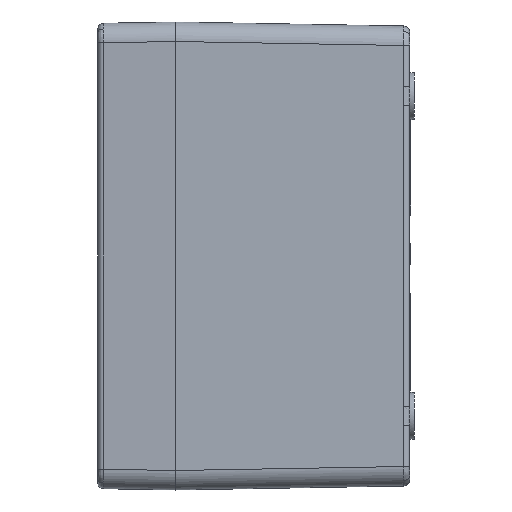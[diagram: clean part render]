
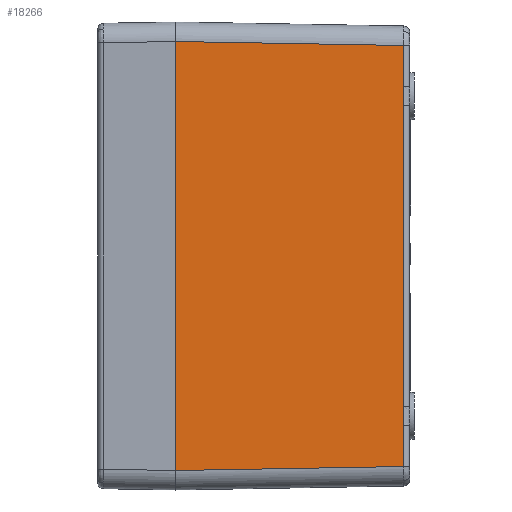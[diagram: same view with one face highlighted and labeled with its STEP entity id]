
A CAD part, left-side view. The second image highlights one B-rep face of the part: STEP entity #18266.
In plain terms, the highlighted planar face has unit normal (-1, -0.018, 0).
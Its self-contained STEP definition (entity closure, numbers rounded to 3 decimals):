
#131 = DIRECTION ( 'NONE',  ( -1., -0.017, 0. ) ) ;
#245 = EDGE_CURVE ( 'NONE', #10546, #3145, #15880, .T. ) ;
#483 = CARTESIAN_POINT ( 'NONE',  ( -59.978, -58.526, 43.039 ) ) ;
#682 = VECTOR ( 'NONE', #11100, 1000. ) ;
#742 = CARTESIAN_POINT ( 'NONE',  ( -59.978, -58.526, -38.554 ) ) ;
#894 = EDGE_CURVE ( 'NONE', #11253, #6095, #16786, .T. ) ;
#1049 = VECTOR ( 'NONE', #6722, 1000. ) ;
#1319 = CARTESIAN_POINT ( 'NONE',  ( -59.978, -58.526, 53.979 ) ) ;
#1507 = CARTESIAN_POINT ( 'NONE',  ( -59.978, -58.553, -39.369 ) ) ;
#1760 = VERTEX_POINT ( 'NONE', #15675 ) ;
#1876 = VERTEX_POINT ( 'NONE', #1319 ) ;
#2108 = CARTESIAN_POINT ( 'NONE',  ( -59.977, -58.601, 41.815 ) ) ;
#2316 = VERTEX_POINT ( 'NONE', #18777 ) ;
#2351 = VECTOR ( 'NONE', #18549, 1000. ) ;
#2868 = LINE ( 'NONE', #16844, #2351 ) ;
#3135 = CARTESIAN_POINT ( 'NONE',  ( -59.977, -58.62, -40.592 ) ) ;
#3145 = VERTEX_POINT ( 'NONE', #7828 ) ;
#3291 = PLANE ( 'NONE',  #11204 ) ;
#3631 = DIRECTION ( 'NONE',  ( 0., 0., 1. ) ) ;
#4760 = CARTESIAN_POINT ( 'NONE',  ( -59.977, -58.601, -41.815 ) ) ;
#4827 = CARTESIAN_POINT ( 'NONE',  ( -59.978, -58.526, -43.038 ) ) ;
#5359 = CARTESIAN_POINT ( 'NONE',  ( -59.977, -58.601, 40.185 ) ) ;
#5679 = ORIENTED_EDGE ( 'NONE', *, *, #245, .T. ) ;
#6095 = VERTEX_POINT ( 'NONE', #742 ) ;
#6254 = CARTESIAN_POINT ( 'NONE',  ( -59.978, -58.526, 60. ) ) ;
#6385 = CARTESIAN_POINT ( 'NONE',  ( -59.978, -58.553, -42.631 ) ) ;
#6418 = EDGE_CURVE ( 'NONE', #7121, #1760, #12961, .T. ) ;
#6429 = ORIENTED_EDGE ( 'NONE', *, *, #16068, .T. ) ;
#6722 = DIRECTION ( 'NONE',  ( 0., 0., 1. ) ) ;
#7042 = DIRECTION ( 'NONE',  ( 0.017, -1., 0.017 ) ) ;
#7121 = VERTEX_POINT ( 'NONE', #18341 ) ;
#7828 = CARTESIAN_POINT ( 'NONE',  ( -59.978, -58.526, 43.446 ) ) ;
#7977 = EDGE_CURVE ( 'NONE', #2316, #11253, #17398, .T. ) ;
#8049 = CARTESIAN_POINT ( 'NONE',  ( -59.978, -58.526, -43.446 ) ) ;
#8638 = CARTESIAN_POINT ( 'NONE',  ( -59.978, -58.526, 38.962 ) ) ;
#8685 = EDGE_CURVE ( 'NONE', #1876, #1760, #12628, .T. ) ;
#9248 = ORIENTED_EDGE ( 'NONE', *, *, #8685, .T. ) ;
#9535 = VECTOR ( 'NONE', #17035, 1000. ) ;
#9893 = CARTESIAN_POINT ( 'NONE',  ( -59.978, -58.526, 60. ) ) ;
#10081 = CARTESIAN_POINT ( 'NONE',  ( -61., 0., 60. ) ) ;
#10181 = CARTESIAN_POINT ( 'NONE',  ( -59.978, -58.526, 43.446 ) ) ;
#10546 = VERTEX_POINT ( 'NONE', #11035 ) ;
#11035 = CARTESIAN_POINT ( 'NONE',  ( -59.978, -58.526, 38.554 ) ) ;
#11100 = DIRECTION ( 'NONE',  ( 0., 0., 1. ) ) ;
#11204 = AXIS2_PLACEMENT_3D ( 'NONE', #19459, #131, #11468 ) ;
#11223 = CARTESIAN_POINT ( 'NONE',  ( -59.978, -58.526, -38.961 ) ) ;
#11253 = VERTEX_POINT ( 'NONE', #15214 ) ;
#11468 = DIRECTION ( 'NONE',  ( 0.017, -1., 0. ) ) ;
#11653 = EDGE_CURVE ( 'NONE', #6095, #10546, #14997, .T. ) ;
#11813 = ORIENTED_EDGE ( 'NONE', *, *, #6418, .F. ) ;
#11848 = CARTESIAN_POINT ( 'NONE',  ( -59.978, -58.553, 42.631 ) ) ;
#12628 = LINE ( 'NONE', #15395, #9535 ) ;
#12632 = EDGE_LOOP ( 'NONE', ( #6429, #16312, #12847, #15029, #5679, #13795, #9248, #11813 ) ) ;
#12847 = ORIENTED_EDGE ( 'NONE', *, *, #894, .T. ) ;
#12903 = CARTESIAN_POINT ( 'NONE',  ( -59.977, -58.601, -40.185 ) ) ;
#12961 = LINE ( 'NONE', #10081, #18224 ) ;
#13464 = CARTESIAN_POINT ( 'NONE',  ( -59.977, -58.62, 41.408 ) ) ;
#13795 = ORIENTED_EDGE ( 'NONE', *, *, #17488, .T. ) ;
#14459 = CARTESIAN_POINT ( 'NONE',  ( -59.977, -58.62, -41.408 ) ) ;
#14997 = LINE ( 'NONE', #9893, #1049 ) ;
#15029 = ORIENTED_EDGE ( 'NONE', *, *, #11653, .T. ) ;
#15064 = CARTESIAN_POINT ( 'NONE',  ( -59.977, -58.62, 40.592 ) ) ;
#15107 = CARTESIAN_POINT ( 'NONE',  ( -60.965, -2.006, -54.966 ) ) ;
#15214 = CARTESIAN_POINT ( 'NONE',  ( -59.978, -58.526, -43.446 ) ) ;
#15395 = CARTESIAN_POINT ( 'NONE',  ( -61.002, 0.087, 55.002 ) ) ;
#15675 = CARTESIAN_POINT ( 'NONE',  ( -61., 0., 55.001 ) ) ;
#15834 = LINE ( 'NONE', #15107, #19653 ) ;
#15880 = B_SPLINE_CURVE_WITH_KNOTS ( 'NONE', 3,
 ( #16669, #8638, #19948, #5359, #15064, #13464, #2108, #11848, #483, #10181 ),
 .UNSPECIFIED., .F., .F.,
 ( 4, 2, 2, 2, 4 ),
 ( 0., 0.001, 0.002, 0.004, 0.005 ),
 .UNSPECIFIED. ) ;
#16068 = EDGE_CURVE ( 'NONE', #7121, #2316, #15834, .T. ) ;
#16312 = ORIENTED_EDGE ( 'NONE', *, *, #7977, .T. ) ;
#16669 = CARTESIAN_POINT ( 'NONE',  ( -59.978, -58.526, 38.554 ) ) ;
#16786 = B_SPLINE_CURVE_WITH_KNOTS ( 'NONE', 3,
 ( #8049, #4827, #6385, #4760, #14459, #3135, #12903, #1507, #11223, #20913 ),
 .UNSPECIFIED., .F., .F.,
 ( 4, 2, 2, 2, 4 ),
 ( 0., 0.001, 0.002, 0.004, 0.005 ),
 .UNSPECIFIED. ) ;
#16844 = CARTESIAN_POINT ( 'NONE',  ( -59.978, -58.526, 60. ) ) ;
#17035 = DIRECTION ( 'NONE',  ( -0.017, 1., 0.017 ) ) ;
#17398 = LINE ( 'NONE', #6254, #682 ) ;
#17488 = EDGE_CURVE ( 'NONE', #3145, #1876, #2868, .T. ) ;
#18224 = VECTOR ( 'NONE', #3631, 1000. ) ;
#18266 = ADVANCED_FACE ( 'NONE', ( #20319 ), #3291, .T. ) ;
#18341 = CARTESIAN_POINT ( 'NONE',  ( -61., 0., -55.001 ) ) ;
#18549 = DIRECTION ( 'NONE',  ( 0., 0., 1. ) ) ;
#18777 = CARTESIAN_POINT ( 'NONE',  ( -59.978, -58.526, -53.979 ) ) ;
#19459 = CARTESIAN_POINT ( 'NONE',  ( -61., 0., 60. ) ) ;
#19653 = VECTOR ( 'NONE', #7042, 1000. ) ;
#19948 = CARTESIAN_POINT ( 'NONE',  ( -59.978, -58.553, 39.369 ) ) ;
#20319 = FACE_OUTER_BOUND ( 'NONE', #12632, .T. ) ;
#20913 = CARTESIAN_POINT ( 'NONE',  ( -59.978, -58.526, -38.554 ) ) ;
